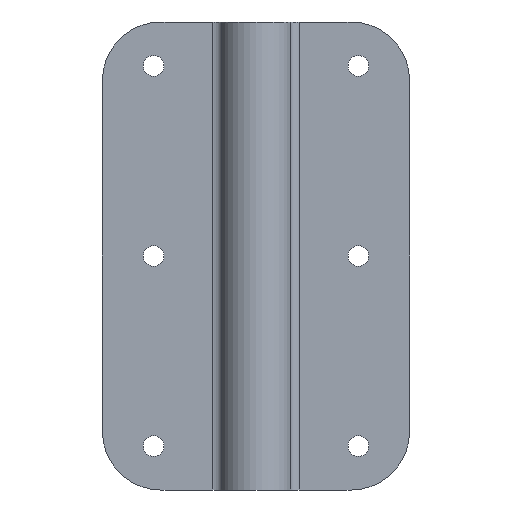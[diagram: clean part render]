
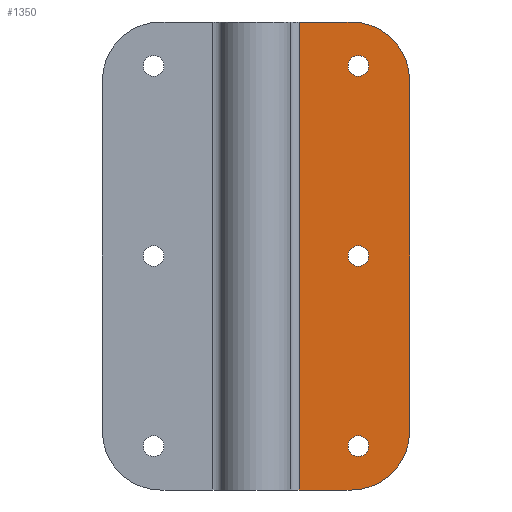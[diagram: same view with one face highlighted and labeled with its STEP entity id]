
A CAD part, front view. The second image highlights one B-rep face of the part: STEP entity #1350.
In plain terms, the highlighted planar face has unit normal (0, -1, 0).
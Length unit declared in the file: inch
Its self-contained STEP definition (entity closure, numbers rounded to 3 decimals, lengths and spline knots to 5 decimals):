
#39 = CARTESIAN_POINT ( 'NONE',  ( 0.255, -0.0575, -2. ) ) ;
#40 = FACE_BOUND ( 'NONE', #1173, .T. ) ;
#47 = CARTESIAN_POINT ( 'NONE',  ( 0.8125, -0.0575, -2. ) ) ;
#58 = EDGE_CURVE ( 'NONE', #569, #80, #1820, .T. ) ;
#80 = VERTEX_POINT ( 'NONE', #2033 ) ;
#109 = CARTESIAN_POINT ( 'NONE',  ( 1.3125, -0.0575, -2. ) ) ;
#120 = EDGE_CURVE ( 'NONE', #80, #569, #1721, .T. ) ;
#140 = DIRECTION ( 'NONE',  ( 0., -1., 0. ) ) ;
#150 = AXIS2_PLACEMENT_3D ( 'NONE', #862, #2003, #1031 ) ;
#151 = DIRECTION ( 'NONE',  ( -1., 0., 0. ) ) ;
#205 = VERTEX_POINT ( 'NONE', #922 ) ;
#217 = CIRCLE ( 'NONE', #752, 0.0885 ) ;
#263 = CARTESIAN_POINT ( 'NONE',  ( 0.875, -0.0575, 0. ) ) ;
#338 = EDGE_LOOP ( 'NONE', ( #911, #1771 ) ) ;
#350 = CARTESIAN_POINT ( 'NONE',  ( 0.875, -0.0575, 1.5365 ) ) ;
#356 = LINE ( 'NONE', #660, #1597 ) ;
#402 = VERTEX_POINT ( 'NONE', #1804 ) ;
#409 = CARTESIAN_POINT ( 'NONE',  ( 1.3125, -0.0575, -1.5 ) ) ;
#429 = DIRECTION ( 'NONE',  ( 0., 0., -1. ) ) ;
#465 = DIRECTION ( 'NONE',  ( 1., 0., 0. ) ) ;
#469 = VECTOR ( 'NONE', #585, 39.37008 ) ;
#471 = DIRECTION ( 'NONE',  ( 0., -1., 0. ) ) ;
#473 = FACE_BOUND ( 'NONE', #338, .T. ) ;
#521 = LINE ( 'NONE', #2044, #469 ) ;
#532 = DIRECTION ( 'NONE',  ( 0., -1., 0. ) ) ;
#569 = VERTEX_POINT ( 'NONE', #1264 ) ;
#576 = EDGE_CURVE ( 'NONE', #402, #830, #705, .T. ) ;
#585 = DIRECTION ( 'NONE',  ( 0., 0., -1. ) ) ;
#605 = AXIS2_PLACEMENT_3D ( 'NONE', #263, #1403, #429 ) ;
#609 = CARTESIAN_POINT ( 'NONE',  ( 0.36979, -0.0575, 2. ) ) ;
#610 = ORIENTED_EDGE ( 'NONE', *, *, #1012, .T. ) ;
#642 = AXIS2_PLACEMENT_3D ( 'NONE', #2087, #1118, #151 ) ;
#656 = EDGE_CURVE ( 'NONE', #1475, #1625, #1852, .T. ) ;
#660 = CARTESIAN_POINT ( 'NONE',  ( 0.255, -0.0575, 2. ) ) ;
#673 = CARTESIAN_POINT ( 'NONE',  ( 0.875, -0.0575, 1.625 ) ) ;
#705 = CIRCLE ( 'NONE', #1873, 0.0885 ) ;
#721 = VERTEX_POINT ( 'NONE', #1790 ) ;
#730 = DIRECTION ( 'NONE',  ( 0., -1., 0. ) ) ;
#752 = AXIS2_PLACEMENT_3D ( 'NONE', #1445, #471, #1607 ) ;
#804 = EDGE_CURVE ( 'NONE', #1853, #205, #356, .T. ) ;
#817 = CARTESIAN_POINT ( 'NONE',  ( 0.875, -0.0575, -1.5365 ) ) ;
#828 = AXIS2_PLACEMENT_3D ( 'NONE', #900, #2035, #1073 ) ;
#830 = VERTEX_POINT ( 'NONE', #350 ) ;
#833 = DIRECTION ( 'NONE',  ( 0., 0., -1. ) ) ;
#855 = EDGE_CURVE ( 'NONE', #830, #402, #1165, .T. ) ;
#862 = CARTESIAN_POINT ( 'NONE',  ( 0.8125, -0.0575, -1.5 ) ) ;
#887 = ORIENTED_EDGE ( 'NONE', *, *, #1937, .T. ) ;
#900 = CARTESIAN_POINT ( 'NONE',  ( 0.875, -0.0575, -1.625 ) ) ;
#911 = ORIENTED_EDGE ( 'NONE', *, *, #58, .F. ) ;
#922 = CARTESIAN_POINT ( 'NONE',  ( 0.8125, -0.0575, 2. ) ) ;
#934 = ORIENTED_EDGE ( 'NONE', *, *, #576, .F. ) ;
#1012 = EDGE_CURVE ( 'NONE', #1720, #1480, #1292, .T. ) ;
#1031 = DIRECTION ( 'NONE',  ( -1., 0., 0. ) ) ;
#1062 = ORIENTED_EDGE ( 'NONE', *, *, #656, .T. ) ;
#1073 = DIRECTION ( 'NONE',  ( 0., 0., -1. ) ) ;
#1107 = CARTESIAN_POINT ( 'NONE',  ( 0.875, -0.0575, 1.625 ) ) ;
#1118 = DIRECTION ( 'NONE',  ( 0., -1., 0. ) ) ;
#1165 = CIRCLE ( 'NONE', #1728, 0.0885 ) ;
#1173 = EDGE_LOOP ( 'NONE', ( #1518, #934 ) ) ;
#1224 = VERTEX_POINT ( 'NONE', #817 ) ;
#1264 = CARTESIAN_POINT ( 'NONE',  ( 0.875, -0.0575, -0.0885 ) ) ;
#1272 = DIRECTION ( 'NONE',  ( 0., 0., -1. ) ) ;
#1292 = LINE ( 'NONE', #109, #2101 ) ;
#1306 = DIRECTION ( 'NONE',  ( 1., 0., 0. ) ) ;
#1334 = PLANE ( 'NONE',  #1860 ) ;
#1341 = FACE_BOUND ( 'NONE', #2008, .T. ) ;
#1350 = ADVANCED_FACE ( 'NONE', ( #40, #1341, #473, #1724 ), #1334, .T. ) ;
#1355 = EDGE_LOOP ( 'NONE', ( #610, #887, #1594, #1562, #1062, #1995 ) ) ;
#1403 = DIRECTION ( 'NONE',  ( 0., -1., 0. ) ) ;
#1420 = VECTOR ( 'NONE', #465, 39.37008 ) ;
#1445 = CARTESIAN_POINT ( 'NONE',  ( 0.875, -0.0575, -1.625 ) ) ;
#1475 = VERTEX_POINT ( 'NONE', #1858 ) ;
#1480 = VERTEX_POINT ( 'NONE', #1704 ) ;
#1498 = ORIENTED_EDGE ( 'NONE', *, *, #1952, .F. ) ;
#1515 = EDGE_CURVE ( 'NONE', #721, #1224, #1845, .T. ) ;
#1518 = ORIENTED_EDGE ( 'NONE', *, *, #855, .F. ) ;
#1562 = ORIENTED_EDGE ( 'NONE', *, *, #1793, .T. ) ;
#1570 = DIRECTION ( 'NONE',  ( 0., 0., 1. ) ) ;
#1594 = ORIENTED_EDGE ( 'NONE', *, *, #804, .F. ) ;
#1597 = VECTOR ( 'NONE', #1306, 39.37008 ) ;
#1607 = DIRECTION ( 'NONE',  ( 0., 0., -1. ) ) ;
#1625 = VERTEX_POINT ( 'NONE', #47 ) ;
#1642 = EDGE_CURVE ( 'NONE', #1625, #1720, #2065, .T. ) ;
#1668 = DIRECTION ( 'NONE',  ( -1., 0., 0. ) ) ;
#1704 = CARTESIAN_POINT ( 'NONE',  ( 1.3125, -0.0575, 1.5 ) ) ;
#1709 = CARTESIAN_POINT ( 'NONE',  ( 0.875, -0.0575, 0. ) ) ;
#1720 = VERTEX_POINT ( 'NONE', #409 ) ;
#1721 = CIRCLE ( 'NONE', #605, 0.0885 ) ;
#1724 = FACE_OUTER_BOUND ( 'NONE', #1355, .T. ) ;
#1728 = AXIS2_PLACEMENT_3D ( 'NONE', #673, #1816, #833 ) ;
#1767 = ORIENTED_EDGE ( 'NONE', *, *, #1515, .F. ) ;
#1771 = ORIENTED_EDGE ( 'NONE', *, *, #120, .F. ) ;
#1773 = CARTESIAN_POINT ( 'NONE',  ( 0.255, -0.0575, -2. ) ) ;
#1790 = CARTESIAN_POINT ( 'NONE',  ( 0.875, -0.0575, -1.7135 ) ) ;
#1793 = EDGE_CURVE ( 'NONE', #1853, #1475, #521, .T. ) ;
#1804 = CARTESIAN_POINT ( 'NONE',  ( 0.875, -0.0575, 1.7135 ) ) ;
#1816 = DIRECTION ( 'NONE',  ( 0., -1., 0. ) ) ;
#1820 = CIRCLE ( 'NONE', #1840, 0.0885 ) ;
#1840 = AXIS2_PLACEMENT_3D ( 'NONE', #1709, #730, #1871 ) ;
#1845 = CIRCLE ( 'NONE', #828, 0.0885 ) ;
#1852 = LINE ( 'NONE', #1773, #1420 ) ;
#1853 = VERTEX_POINT ( 'NONE', #609 ) ;
#1858 = CARTESIAN_POINT ( 'NONE',  ( 0.36979, -0.0575, -2. ) ) ;
#1860 = AXIS2_PLACEMENT_3D ( 'NONE', #39, #532, #1668 ) ;
#1871 = DIRECTION ( 'NONE',  ( 0., 0., -1. ) ) ;
#1873 = AXIS2_PLACEMENT_3D ( 'NONE', #1107, #140, #1272 ) ;
#1891 = CIRCLE ( 'NONE', #642, 0.5 ) ;
#1937 = EDGE_CURVE ( 'NONE', #1480, #205, #1891, .T. ) ;
#1952 = EDGE_CURVE ( 'NONE', #1224, #721, #217, .T. ) ;
#1995 = ORIENTED_EDGE ( 'NONE', *, *, #1642, .T. ) ;
#2003 = DIRECTION ( 'NONE',  ( 0., -1., 0. ) ) ;
#2008 = EDGE_LOOP ( 'NONE', ( #1767, #1498 ) ) ;
#2033 = CARTESIAN_POINT ( 'NONE',  ( 0.875, -0.0575, 0.0885 ) ) ;
#2035 = DIRECTION ( 'NONE',  ( 0., -1., 0. ) ) ;
#2044 = CARTESIAN_POINT ( 'NONE',  ( 0.36979, -0.0575, -2. ) ) ;
#2065 = CIRCLE ( 'NONE', #150, 0.5 ) ;
#2087 = CARTESIAN_POINT ( 'NONE',  ( 0.8125, -0.0575, 1.5 ) ) ;
#2101 = VECTOR ( 'NONE', #1570, 39.37008 ) ;
